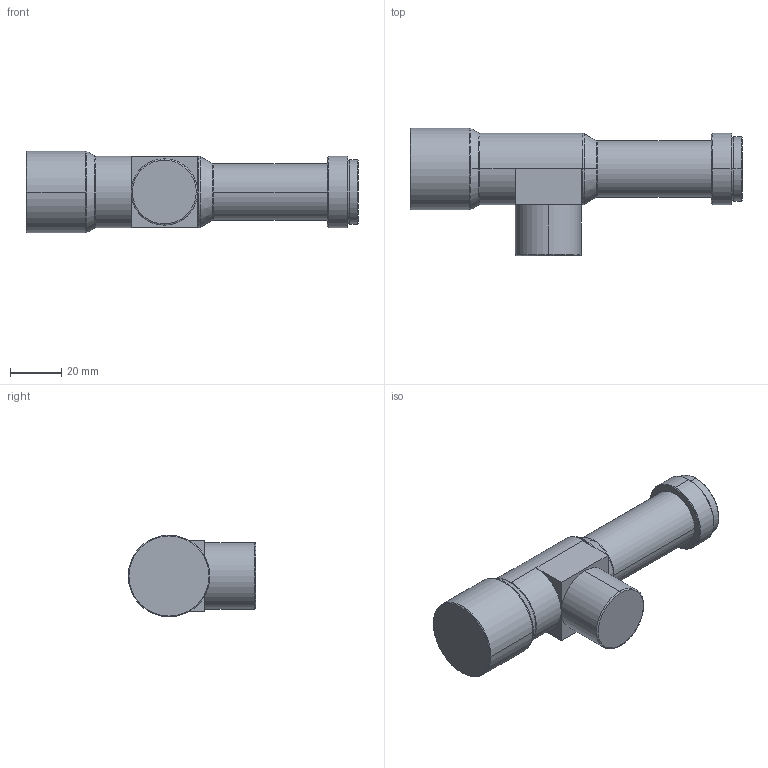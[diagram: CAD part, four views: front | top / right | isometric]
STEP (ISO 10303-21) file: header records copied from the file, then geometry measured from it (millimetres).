
FILE_DESCRIPTION (( 'STEP AP203' ), '1' );
FILE_NAME ('WWH15-108CTLV3.STEP', '2022-12-13T08:03:38', ( '' ), ( '' ), 'SwSTEP 2.0', 'SolidWorks 2017', '' );
FILE_SCHEMA (( 'CONFIG_CONTROL_DESIGN' ));
Length unit declared in the file: millimetre
Products named in the file (1): WWH15-108CTLV3
Bounding box: 130.1 x 50 x 32 mm (x, y, z)
Volume: 85994 mm3; surface area: 14709.3 mm2
Topology: 1 solids, 1 shells, 51 faces, 110 edges, 64 vertices
Faces by surface type: cylinder 15, plane 14, cone 12, bspline 10
Entity records: 1710 total; most frequent: CARTESIAN_POINT 556, DIRECTION 240, ORIENTED_EDGE 220, EDGE_CURVE 110, AXIS2_PLACEMENT_3D 100, VERTEX_POINT 64, CIRCLE 58, EDGE_LOOP 54
